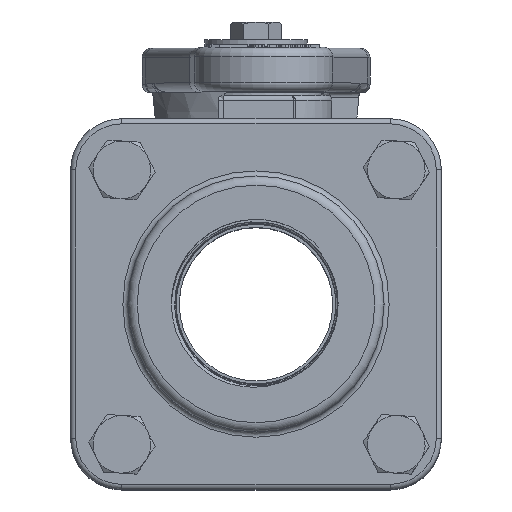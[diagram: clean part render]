
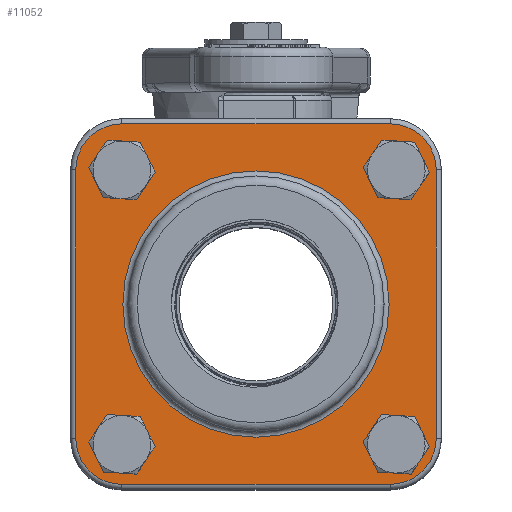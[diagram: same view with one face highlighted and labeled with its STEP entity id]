
A CAD part, top view. The second image highlights one B-rep face of the part: STEP entity #11052.
In plain terms, the highlighted planar face has unit normal (0, 0, 1) as drawn and (1, 0, 0) by its records, which use the part's own axes.
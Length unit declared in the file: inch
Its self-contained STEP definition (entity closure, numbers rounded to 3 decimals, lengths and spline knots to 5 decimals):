
#2491=PLANE('',#11734);
#2741=VECTOR('',#12782,1.);
#2744=VECTOR('',#12789,1.);
#2745=VECTOR('',#12808,1.);
#2748=VECTOR('',#12815,1.);
#3363=LINE('',#39797,#2741);
#3366=LINE('',#39804,#2744);
#3367=LINE('',#39821,#2745);
#3370=LINE('',#39828,#2748);
#4078=VERTEX_POINT('',#39768);
#4080=VERTEX_POINT('',#39773);
#4082=VERTEX_POINT('',#39778);
#4084=VERTEX_POINT('',#39783);
#4086=VERTEX_POINT('',#39787);
#4087=VERTEX_POINT('',#39789);
#4090=VERTEX_POINT('',#39796);
#4091=VERTEX_POINT('',#39801);
#4094=VERTEX_POINT('',#39808);
#4095=VERTEX_POINT('',#39813);
#4098=VERTEX_POINT('',#39820);
#4099=VERTEX_POINT('',#39825);
#4106=VERTEX_POINT('',#39852);
#4921=CIRCLE('',#11694,0.4826);
#4923=CIRCLE('',#11697,0.4826);
#4925=CIRCLE('',#11700,0.4826);
#4927=CIRCLE('',#11703,0.4826);
#4929=CIRCLE('',#11706,1.143);
#4935=CIRCLE('',#11715,1.143);
#4939=CIRCLE('',#11720,1.143);
#4943=CIRCLE('',#11727,1.143);
#4946=CIRCLE('',#11735,3.302);
#5428=EDGE_CURVE('',#4078,#4078,#4921,.T.);
#5430=EDGE_CURVE('',#4080,#4080,#4923,.T.);
#5432=EDGE_CURVE('',#4082,#4082,#4925,.T.);
#5434=EDGE_CURVE('',#4084,#4084,#4927,.T.);
#5436=EDGE_CURVE('',#4086,#4087,#4929,.T.);
#5440=EDGE_CURVE('',#4090,#4086,#3363,.T.);
#5444=EDGE_CURVE('',#4087,#4091,#3366,.T.);
#5446=EDGE_CURVE('',#4094,#4090,#4935,.T.);
#5450=EDGE_CURVE('',#4091,#4095,#4939,.T.);
#5452=EDGE_CURVE('',#4098,#4094,#3367,.T.);
#5456=EDGE_CURVE('',#4095,#4099,#3370,.T.);
#5458=EDGE_CURVE('',#4099,#4098,#4943,.T.);
#5468=EDGE_CURVE('',#4106,#4106,#4946,.T.);
#7251=ORIENTED_EDGE('',*,*,#5428,.T.);
#7252=ORIENTED_EDGE('',*,*,#5430,.T.);
#7253=ORIENTED_EDGE('',*,*,#5432,.T.);
#7254=ORIENTED_EDGE('',*,*,#5434,.T.);
#7255=ORIENTED_EDGE('',*,*,#5468,.F.);
#7256=ORIENTED_EDGE('',*,*,#5436,.F.);
#7257=ORIENTED_EDGE('',*,*,#5440,.F.);
#7258=ORIENTED_EDGE('',*,*,#5446,.F.);
#7259=ORIENTED_EDGE('',*,*,#5452,.F.);
#7260=ORIENTED_EDGE('',*,*,#5458,.F.);
#7261=ORIENTED_EDGE('',*,*,#5456,.F.);
#7262=ORIENTED_EDGE('',*,*,#5450,.F.);
#7263=ORIENTED_EDGE('',*,*,#5444,.F.);
#9732=EDGE_LOOP('',(#7251));
#9733=EDGE_LOOP('',(#7252));
#9734=EDGE_LOOP('',(#7253));
#9735=EDGE_LOOP('',(#7254));
#9736=EDGE_LOOP('',(#7255));
#9737=EDGE_LOOP('',(#7256,#7257,#7258,#7259,#7260,#7261,#7262,#7263));
#10411=FACE_BOUND('',#9732,.T.);
#10412=FACE_BOUND('',#9733,.T.);
#10413=FACE_BOUND('',#9734,.T.);
#10414=FACE_BOUND('',#9735,.T.);
#10415=FACE_BOUND('',#9736,.T.);
#10416=FACE_BOUND('',#9737,.T.);
#11052=ADVANCED_FACE('',(#10411,#10412,#10413,#10414,#10415,#10416),#2491,
 .T.);
#11694=AXIS2_PLACEMENT_3D('',#39767,#12749,#12750);
#11697=AXIS2_PLACEMENT_3D('',#39772,#12755,#12756);
#11700=AXIS2_PLACEMENT_3D('',#39777,#12761,#12762);
#11703=AXIS2_PLACEMENT_3D('',#39782,#12767,#12768);
#11706=AXIS2_PLACEMENT_3D('',#39788,#12772,#12773);
#11715=AXIS2_PLACEMENT_3D('',#39809,#12793,#12794);
#11720=AXIS2_PLACEMENT_3D('',#39816,#12802,#12803);
#11727=AXIS2_PLACEMENT_3D('',#39831,#12819,#12820);
#11734=AXIS2_PLACEMENT_3D('',#39850,#12838,$);
#11735=AXIS2_PLACEMENT_3D('',#39851,#12839,#12840);
#12749=DIRECTION('',(-1.,0.,0.));
#12750=DIRECTION('',(0.,-0.483,0.));
#12755=DIRECTION('',(-1.,0.,0.));
#12756=DIRECTION('',(0.,0.,0.483));
#12761=DIRECTION('',(-1.,0.,0.));
#12762=DIRECTION('',(0.,0.483,0.));
#12767=DIRECTION('',(-1.,0.,0.));
#12768=DIRECTION('',(0.,0.,-0.483));
#12772=DIRECTION('',(-1.,0.,0.));
#12773=DIRECTION('',(0.,0.808,0.808));
#12782=DIRECTION('',(0.,1.,0.));
#12789=DIRECTION('',(0.,0.,-1.));
#12793=DIRECTION('',(-1.,0.,0.));
#12794=DIRECTION('',(0.,-0.808,0.808));
#12802=DIRECTION('',(-1.,0.,0.));
#12803=DIRECTION('',(0.,0.808,-0.808));
#12808=DIRECTION('',(0.,0.,1.));
#12815=DIRECTION('',(0.,-1.,0.));
#12819=DIRECTION('',(-1.,0.,0.));
#12820=DIRECTION('',(0.,-0.808,-0.808));
#12838=DIRECTION('',(1.,0.,0.));
#12839=DIRECTION('',(1.,0.,0.));
#12840=DIRECTION('',(0.,0.,3.302));
#39767=CARTESIAN_POINT('',(1.6002,-3.3274,-3.3274));
#39768=CARTESIAN_POINT('',(1.6002,-2.8448,-3.3274));
#39772=CARTESIAN_POINT('',(1.6002,-3.3274,3.3274));
#39773=CARTESIAN_POINT('',(1.6002,-3.3274,2.8448));
#39777=CARTESIAN_POINT('',(1.6002,3.3274,3.3274));
#39778=CARTESIAN_POINT('',(1.6002,2.8448,3.3274));
#39782=CARTESIAN_POINT('',(1.6002,3.3274,-3.3274));
#39783=CARTESIAN_POINT('',(1.6002,3.3274,-2.8448));
#39787=CARTESIAN_POINT('',(1.6002,3.3274,4.4704));
#39788=CARTESIAN_POINT('',(1.6002,3.3274,3.3274));
#39789=CARTESIAN_POINT('',(1.6002,4.4704,3.3274));
#39796=CARTESIAN_POINT('',(1.6002,-3.3274,4.4704));
#39797=CARTESIAN_POINT('',(1.6002,0.,4.4704));
#39801=CARTESIAN_POINT('',(1.6002,4.4704,-3.3274));
#39804=CARTESIAN_POINT('',(1.6002,4.4704,0.));
#39808=CARTESIAN_POINT('',(1.6002,-4.4704,3.3274));
#39809=CARTESIAN_POINT('',(1.6002,-3.3274,3.3274));
#39813=CARTESIAN_POINT('',(1.6002,3.3274,-4.4704));
#39816=CARTESIAN_POINT('',(1.6002,3.3274,-3.3274));
#39820=CARTESIAN_POINT('',(1.6002,-4.4704,-3.3274));
#39821=CARTESIAN_POINT('',(1.6002,-4.4704,0.));
#39825=CARTESIAN_POINT('',(1.6002,-3.3274,-4.4704));
#39828=CARTESIAN_POINT('',(1.6002,0.,-4.4704));
#39831=CARTESIAN_POINT('',(1.6002,-3.3274,-3.3274));
#39850=CARTESIAN_POINT('',(1.6002,0.,0.));
#39851=CARTESIAN_POINT('',(1.6002,0.,0.));
#39852=CARTESIAN_POINT('',(1.6002,0.,-3.302));
